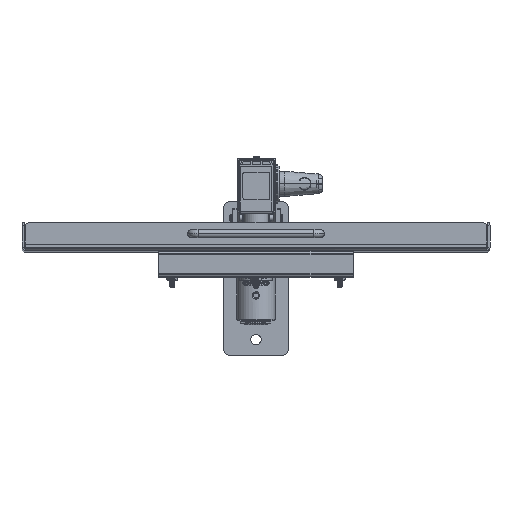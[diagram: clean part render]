
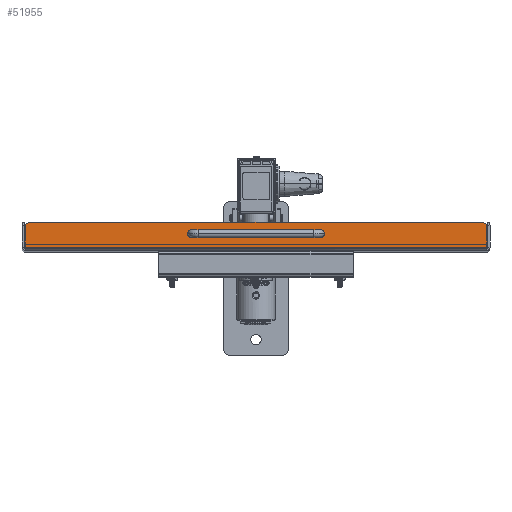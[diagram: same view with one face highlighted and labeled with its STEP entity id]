
A CAD part, top view. The second image highlights one B-rep face of the part: STEP entity #51955.
In plain terms, the highlighted planar face has unit normal (0, 0.004, 1) as drawn and (0, 0, 1) by its records, which use the part's own axes.
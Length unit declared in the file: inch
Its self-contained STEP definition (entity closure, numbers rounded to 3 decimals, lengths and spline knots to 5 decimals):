
#370 = LINE ( 'NONE', #57757, #54822 ) ;
#1611 = CARTESIAN_POINT ( 'NONE',  ( 2.5, 0.55, 6.09 ) ) ;
#2866 = LINE ( 'NONE', #34707, #51982 ) ;
#3024 = VERTEX_POINT ( 'NONE', #44325 ) ;
#4214 = EDGE_CURVE ( 'NONE', #9682, #44588, #59835, .T. ) ;
#4785 = VERTEX_POINT ( 'NONE', #34939 ) ;
#4947 = AXIS2_PLACEMENT_3D ( 'NONE', #60201, #41341, #15358 ) ;
#5322 = CARTESIAN_POINT ( 'NONE',  ( 2.6005, 0.55, 6.09 ) ) ;
#5372 = CARTESIAN_POINT ( 'NONE',  ( -2.6005, 0.55, 6.09 ) ) ;
#5409 = CARTESIAN_POINT ( 'NONE',  ( 8.96464, 0.87817, 6.09 ) ) ;
#6115 = FACE_BOUND ( 'NONE', #35925, .T. ) ;
#6265 = DIRECTION ( 'NONE',  ( -1., 0., 0. ) ) ;
#6515 = DIRECTION ( 'NONE',  ( 0., -1., 0. ) ) ;
#6719 = DIRECTION ( 'NONE',  ( 0., 0., -1. ) ) ;
#6829 = VERTEX_POINT ( 'NONE', #12380 ) ;
#8095 = EDGE_CURVE ( 'NONE', #32708, #3024, #22810, .T. ) ;
#9341 = ORIENTED_EDGE ( 'NONE', *, *, #4214, .T. ) ;
#9682 = VERTEX_POINT ( 'NONE', #61929 ) ;
#11617 = AXIS2_PLACEMENT_3D ( 'NONE', #41738, #22843, #34615 ) ;
#12380 = CARTESIAN_POINT ( 'NONE',  ( -8.75, 1., 6.09 ) ) ;
#13901 = ORIENTED_EDGE ( 'NONE', *, *, #68592, .T. ) ;
#14157 = DIRECTION ( 'NONE',  ( 0., 0., -1. ) ) ;
#14532 = LINE ( 'NONE', #27534, #20456 ) ;
#15206 = DIRECTION ( 'NONE',  ( 0., -1., 0. ) ) ;
#15358 = DIRECTION ( 'NONE',  ( 0., -1., 0. ) ) ;
#15897 = ORIENTED_EDGE ( 'NONE', *, *, #34841, .F. ) ;
#17106 = ORIENTED_EDGE ( 'NONE', *, *, #72025, .T. ) ;
#19085 = CARTESIAN_POINT ( 'NONE',  ( 2.5, 0.55, 6.09 ) ) ;
#20456 = VECTOR ( 'NONE', #46807, 39.37008 ) ;
#20669 = CARTESIAN_POINT ( 'NONE',  ( 8.75, 0.75, 6.09 ) ) ;
#20938 = ORIENTED_EDGE ( 'NONE', *, *, #61825, .F. ) ;
#22810 = CIRCLE ( 'NONE', #57594, 0.1005 ) ;
#22843 = DIRECTION ( 'NONE',  ( 0., 0., -1. ) ) ;
#22860 = AXIS2_PLACEMENT_3D ( 'NONE', #32311, #6719, #70389 ) ;
#23863 = ORIENTED_EDGE ( 'NONE', *, *, #8095, .T. ) ;
#24123 = DIRECTION ( 'NONE',  ( 0., 0., -1. ) ) ;
#25643 = EDGE_CURVE ( 'NONE', #44588, #9682, #51024, .T. ) ;
#26211 = FACE_BOUND ( 'NONE', #75129, .T. ) ;
#27534 = CARTESIAN_POINT ( 'NONE',  ( 8.75, 0.032, 6.09 ) ) ;
#28041 = VECTOR ( 'NONE', #15206, 39.37008 ) ;
#28053 = ORIENTED_EDGE ( 'NONE', *, *, #80618, .F. ) ;
#31540 = CARTESIAN_POINT ( 'NONE',  ( -8.96464, 0.032, 6.09 ) ) ;
#32311 = CARTESIAN_POINT ( 'NONE',  ( -2.5, 0.55, 6.09 ) ) ;
#32708 = VERTEX_POINT ( 'NONE', #5322 ) ;
#34225 = EDGE_LOOP ( 'NONE', ( #15897, #74170, #28053, #20938, #17106, #44058 ) ) ;
#34331 = VERTEX_POINT ( 'NONE', #31540 ) ;
#34615 = DIRECTION ( 'NONE',  ( -1., 0., 0. ) ) ;
#34707 = CARTESIAN_POINT ( 'NONE',  ( 8.96464, 0.75, 6.09 ) ) ;
#34841 = EDGE_CURVE ( 'NONE', #63655, #4785, #2866, .T. ) ;
#34939 = CARTESIAN_POINT ( 'NONE',  ( 8.96464, 0.032, 6.09 ) ) ;
#35548 = DIRECTION ( 'NONE',  ( 0., -1., 0. ) ) ;
#35925 = EDGE_LOOP ( 'NONE', ( #23863, #13901 ) ) ;
#36309 = EDGE_CURVE ( 'NONE', #63373, #63655, #60088, .T. ) ;
#41341 = DIRECTION ( 'NONE',  ( 0., 0., -1. ) ) ;
#41738 = CARTESIAN_POINT ( 'NONE',  ( -2.5, 0.55, 6.09 ) ) ;
#42752 = AXIS2_PLACEMENT_3D ( 'NONE', #20669, #78067, #46259 ) ;
#44058 = ORIENTED_EDGE ( 'NONE', *, *, #73480, .T. ) ;
#44243 = FACE_OUTER_BOUND ( 'NONE', #34225, .T. ) ;
#44325 = CARTESIAN_POINT ( 'NONE',  ( 2.3995, 0.55, 6.09 ) ) ;
#44588 = VERTEX_POINT ( 'NONE', #5372 ) ;
#46259 = DIRECTION ( 'NONE',  ( 0., -1., 0. ) ) ;
#46807 = DIRECTION ( 'NONE',  ( 1., 0., 0. ) ) ;
#46949 = CIRCLE ( 'NONE', #70985, 0.1005 ) ;
#50507 = CARTESIAN_POINT ( 'NONE',  ( 8.75, 0.75, 6.09 ) ) ;
#51024 = CIRCLE ( 'NONE', #22860, 0.1005 ) ;
#51955 = ADVANCED_FACE ( 'NONE', ( #26211, #44243, #6115 ), #76466, .T. ) ;
#51982 = VECTOR ( 'NONE', #35548, 39.37008 ) ;
#52544 = DIRECTION ( 'NONE',  ( 1., 0., 0. ) ) ;
#54822 = VECTOR ( 'NONE', #52544, 39.37008 ) ;
#57594 = AXIS2_PLACEMENT_3D ( 'NONE', #19085, #24123, #63516 ) ;
#57757 = CARTESIAN_POINT ( 'NONE',  ( 8.75, 1., 6.09 ) ) ;
#59835 = CIRCLE ( 'NONE', #11617, 0.1005 ) ;
#60088 = CIRCLE ( 'NONE', #42752, 0.25 ) ;
#60201 = CARTESIAN_POINT ( 'NONE',  ( -8.75, 0.75, 6.09 ) ) ;
#61825 = EDGE_CURVE ( 'NONE', #76287, #6829, #63819, .T. ) ;
#61929 = CARTESIAN_POINT ( 'NONE',  ( -2.3995, 0.55, 6.09 ) ) ;
#63373 = VERTEX_POINT ( 'NONE', #75961 ) ;
#63516 = DIRECTION ( 'NONE',  ( -1., 0., 0. ) ) ;
#63655 = VERTEX_POINT ( 'NONE', #5409 ) ;
#63819 = CIRCLE ( 'NONE', #4947, 0.25 ) ;
#65176 = CARTESIAN_POINT ( 'NONE',  ( -8.96464, 0.87817, 6.09 ) ) ;
#66751 = ORIENTED_EDGE ( 'NONE', *, *, #25643, .T. ) ;
#67132 = CARTESIAN_POINT ( 'NONE',  ( -8.96464, 0.75, 6.09 ) ) ;
#68592 = EDGE_CURVE ( 'NONE', #3024, #32708, #46949, .T. ) ;
#70389 = DIRECTION ( 'NONE',  ( -1., 0., 0. ) ) ;
#70985 = AXIS2_PLACEMENT_3D ( 'NONE', #1611, #14157, #6265 ) ;
#72025 = EDGE_CURVE ( 'NONE', #76287, #34331, #73420, .T. ) ;
#73420 = LINE ( 'NONE', #67132, #28041 ) ;
#73480 = EDGE_CURVE ( 'NONE', #34331, #4785, #14532, .T. ) ;
#74170 = ORIENTED_EDGE ( 'NONE', *, *, #36309, .F. ) ;
#75129 = EDGE_LOOP ( 'NONE', ( #9341, #66751 ) ) ;
#75961 = CARTESIAN_POINT ( 'NONE',  ( 8.75, 1., 6.09 ) ) ;
#76040 = DIRECTION ( 'NONE',  ( 0., 0., 1. ) ) ;
#76287 = VERTEX_POINT ( 'NONE', #65176 ) ;
#76466 = PLANE ( 'NONE',  #77568 ) ;
#77568 = AXIS2_PLACEMENT_3D ( 'NONE', #50507, #76040, #6515 ) ;
#78067 = DIRECTION ( 'NONE',  ( 0., 0., -1. ) ) ;
#80618 = EDGE_CURVE ( 'NONE', #6829, #63373, #370, .T. ) ;
